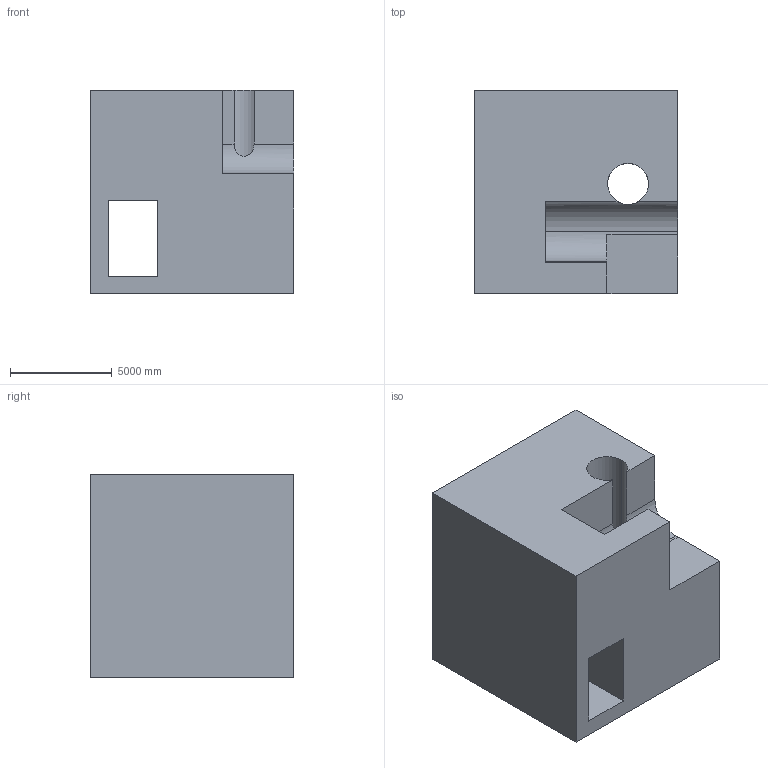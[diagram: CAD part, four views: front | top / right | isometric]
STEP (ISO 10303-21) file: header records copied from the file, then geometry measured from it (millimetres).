
FILE_DESCRIPTION (( 'STEP AP203' ), '1' );
FILE_NAME ('1392.STEP', '2022-08-18T14:12:33', ( 'user' ), ( '' ), 'SwSTEP 2.0', 'SolidWorks 2021', '' );
FILE_SCHEMA (( 'CONFIG_CONTROL_DESIGN' ));
Length unit declared in the file: centimetre
Products named in the file (1): 1392
Bounding box: 10000 x 10000 x 10000 mm (x, y, z)
Volume: 780424213722.8 mm3; surface area: 775012365 mm2
Topology: 1 solids, 1 shells, 20 faces, 57 edges, 38 vertices
Faces by surface type: plane 16, cylinder 4
Entity records: 843 total; most frequent: CARTESIAN_POINT 225, ORIENTED_EDGE 114, DIRECTION 108, EDGE_CURVE 57, VECTOR 46, LINE 46, VERTEX_POINT 38, AXIS2_PLACEMENT_3D 31
